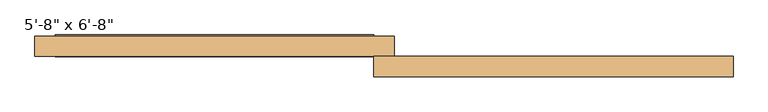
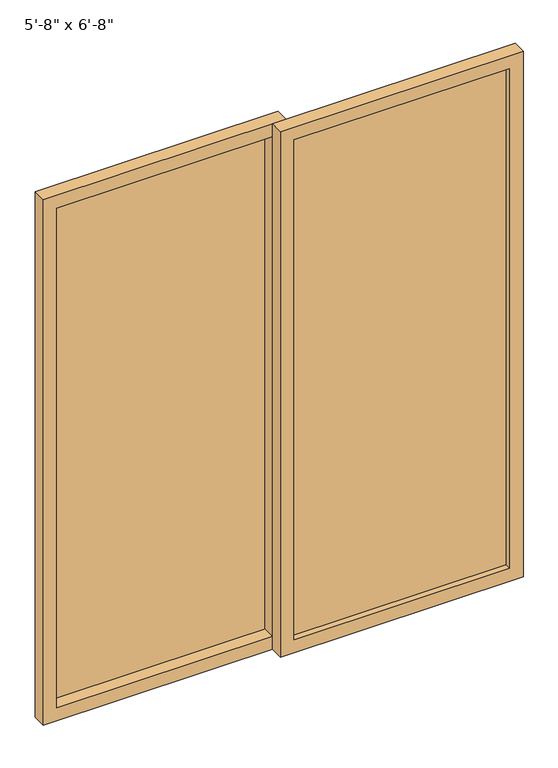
"""IFC4 building model written with IfcOpenShell, lengths in millimetres: door geometry."""

from ifc_helpers import new_model, si_unit, frame, origin, place, context, project, spatial, polyline, outline, extrude, source, transform, mapped, element, save


def door_2c25f452(model_context):
    return source(origin(), model_context, "Body", "SweptSolid", [
        extrude(outline(polyline([(2032.0, -25.0), (0.0, -25.0), (0.0, 863.6), (2032.0, 863.6), (2032.0, -25.0)]), holes=[polyline([(1982.0, 25.0), (1982.0, 813.6), (50.0, 813.6), (50.0, 25.0), (1982.0, 25.0)])]), frame((0.0, 103.2, 0.0), z_axis=(0.0, 1.0, 0.0), x_axis=(0.0, 0.0, 1.0)), (0.0, 0.0, 1.0), 50.0),
        extrude(outline(polyline([(2032.0, 25.0), (2032.0, -863.6), (0.0, -863.6), (0.0, 25.0), (2032.0, 25.0)]), holes=[polyline([(1982.0, -25.0), (50.0, -25.0), (50.0, -813.6), (1982.0, -813.6), (1982.0, -25.0)])]), frame((0.0, 153.2, 0.0), z_axis=(0.0, 1.0, 0.0), x_axis=(0.0, 0.0, 1.0)), (0.0, 0.0, 1.0), 50.0),
        extrude(outline(polyline([(25.0, 131.375), (813.6, 131.375), (813.6, 125.025), (25.0, 125.025), (25.0, 131.375)])), frame((0.0, 0.0, 50.0), z_axis=(0.0, 0.0, 1.0), x_axis=(1.0, 0.0, 0.0)), (0.0, 0.0, 1.0), 1932.0),
        extrude(outline(polyline([(-25.0, 200.025), (-813.6, 200.025), (-813.6, 206.375), (-25.0, 206.375), (-25.0, 200.025)])), frame((0.0, 0.0, 50.0), z_axis=(0.0, 0.0, 1.0), x_axis=(1.0, 0.0, 0.0)), (0.0, 0.0, 1.0), 1932.0),
    ])


if __name__ == "__main__":
    model = new_model("IFC4")
    model_context = context("Model", 3, world=origin())
    ifc_project = project(units=[si_unit("LENGTHUNIT", "METRE", prefix="MILLI")], contexts=[model_context])
    site = spatial("IfcSite", under=ifc_project)
    building = spatial("IfcBuilding", under=site)
    placement = place(None, origin())
    door_shape = door_2c25f452(model_context)
    element("IfcDoor", 1, ObjectType="Planitar - Double Sliding Door_Glass : 5'-8\" x 6'-8\"", at=placement, inside=building, context=model_context, shape_type="MappedRepresentation", body=[
        mapped(door_shape, transform((0.0, 0.0, 0.0), x_axis=(1.0, 0.0, 0.0), y_axis=(0.0, 1.0, 0.0), z_axis=(0.0, 0.0, 1.0))),
    ])
    save(model, "model.ifc")
